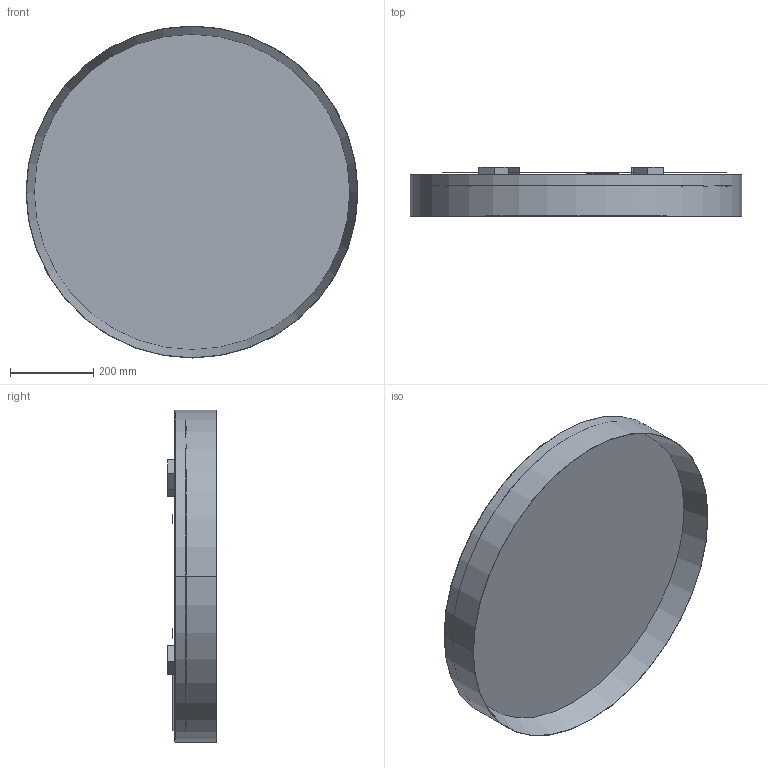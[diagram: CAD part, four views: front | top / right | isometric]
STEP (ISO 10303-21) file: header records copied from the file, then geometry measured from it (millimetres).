
FILE_DESCRIPTION((''),'2;1');
FILE_NAME('PROFILO_800_T','2026-03-02T08:21:36',('Minervini'),(''),'CREO PARAMETRIC BY PTC INC, 2025010','CREO PARAMETRIC BY PTC INC, 2025010','');
FILE_SCHEMA(('AUTOMOTIVE_DESIGN { 1 0 10303 214 1 1 1 1 }'));
Length unit declared in the file: millimetre
Products named in the file (1): PROFILO_800_T
Bounding box: 800 x 117.64 x 800 mm (x, y, z)
Surface area: 2216656.8 mm2 (no closed solid volume)
Topology: 0 solids, 20 shells, 49 faces, 378 edges, 347 vertices
Faces by surface type: plane 38, cylinder 5, torus 4, cone 2
Entity records: 5217 total; most frequent: CARTESIAN_POINT 2134, DIRECTION 563, ORIENTED_EDGE 427, EDGE_CURVE 378, VERTEX_POINT 347, VECTOR 227, LINE 227, COLOUR_RGB 175
